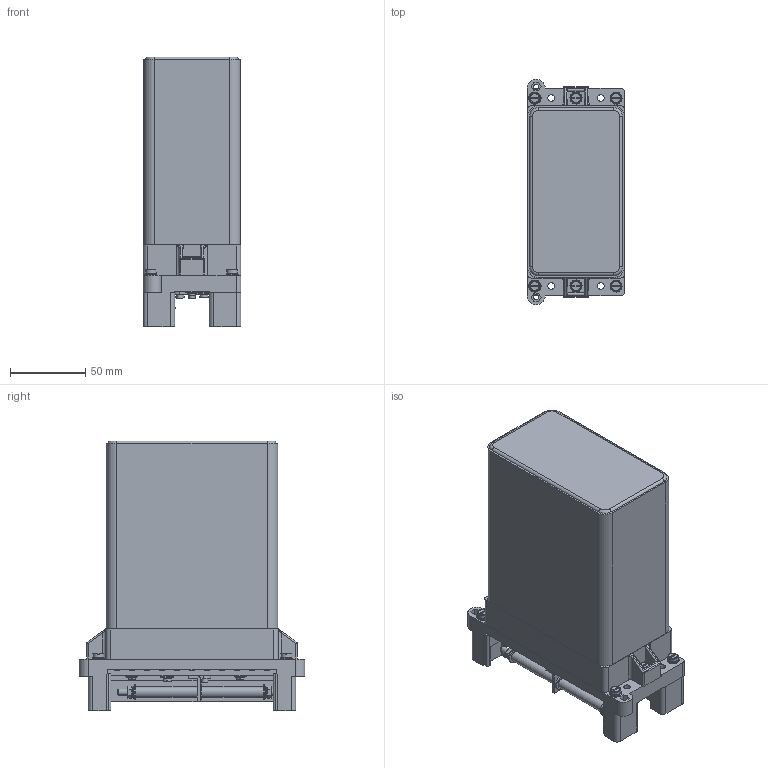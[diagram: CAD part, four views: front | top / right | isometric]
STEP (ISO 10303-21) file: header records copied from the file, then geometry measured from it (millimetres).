
FILE_DESCRIPTION(('STEP AP203'), '1');
FILE_NAME('ÐÑÍ 11, 12, 18 çàäíåå ïðèñîåäèíåíèå', '', ('UNSPECIFIED'), ('UNSPECIFIED'), 'ASCON STEP Converter 1.3', 'ASCON Math Kernel', '');
FILE_SCHEMA(('CONFIG_CONTROL_DESIGN'));
Length unit declared in the file: millimetre
Bounding box: 65 x 150 x 179.5 mm (x, y, z)
Volume: 261835.9 mm3; surface area: 200910.1 mm2
Topology: 1 solids, 1 shells, 6442 faces, 17563 edges, 11550 vertices
Faces by surface type: plane 3483, extrusion 2249, cylinder 602, torus 54, cone 42, bspline 12
Full cylindrical faces by diameter (mm): 2 x4, 2.5 x2, 3 x2, 3.2 x2, 3.5 x2, 4 x35, 4.3 x12, 4.5 x29, 5 x2, 5.2 x3, 5.3 x1, 5.5 x4, 7 x2, 8 x14, 9 x2, 10 x3
Entity records: 260652 total; most frequent: CARTESIAN_POINT 54945, ORIENTED_EDGE 34752, DIRECTION 24646, EDGE_CURVE 17376, VECTOR 13276, VERTEX_POINT 11550, LINE 11027, EDGE_LOOP 7216
